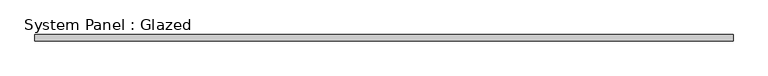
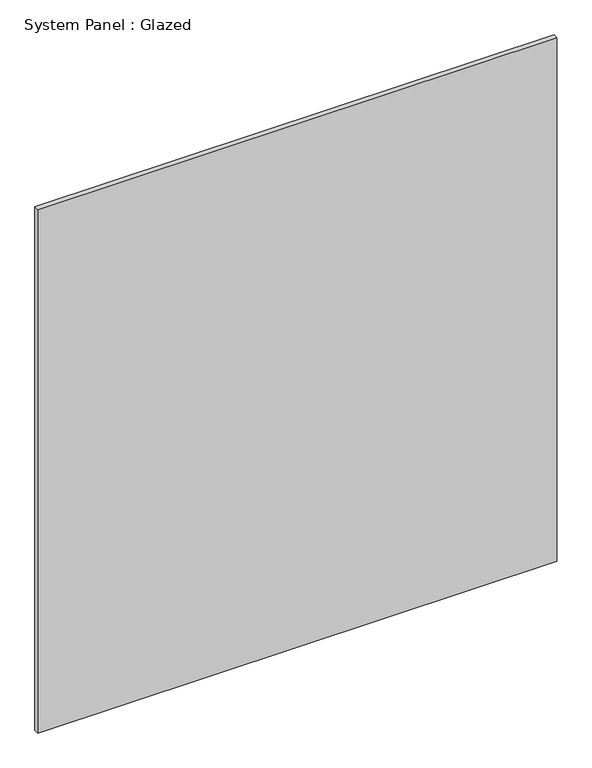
"""IFC4 building model written with IfcOpenShell, lengths in millimetres: plate geometry, System Panel : Glazed."""

from ifc_helpers import new_model, si_unit, origin, origin_with_axes, place, context, project, spatial, polyline, outline, extrude, source, transform, mapped, element, save


def system_panel_glazed_56108ee3(model_context):
    return source(origin(), model_context, "Body", "SweptSolid", [
        extrude(outline(polyline([(1400.175, -44.45), (-1400.175, -44.45), (-1400.175, -19.05), (1400.175, -19.05), (1400.175, -44.45)])), origin_with_axes(), (0.0, 0.0, 1.0), 2984.5),
    ])


if __name__ == "__main__":
    model = new_model("IFC4")
    model_context = context("Model", 3, world=origin())
    ifc_project = project(units=[si_unit("LENGTHUNIT", "METRE", prefix="MILLI")], contexts=[model_context])
    site = spatial("IfcSite", under=ifc_project)
    building = spatial("IfcBuilding", under=site)
    placement = place(None, origin())
    system_panel_glazed_shape = system_panel_glazed_56108ee3(model_context)
    element("IfcPlate", 1, ObjectType="System Panel : Glazed", at=placement, inside=building, context=model_context, shape_type="MappedRepresentation", body=[
        mapped(system_panel_glazed_shape, transform((0.0, 0.0, 0.0), x_axis=(1.0, 0.0, 0.0), y_axis=(0.0, 1.0, 0.0), z_axis=(0.0, 0.0, 1.0))),
    ])
    save(model, "model.ifc")
